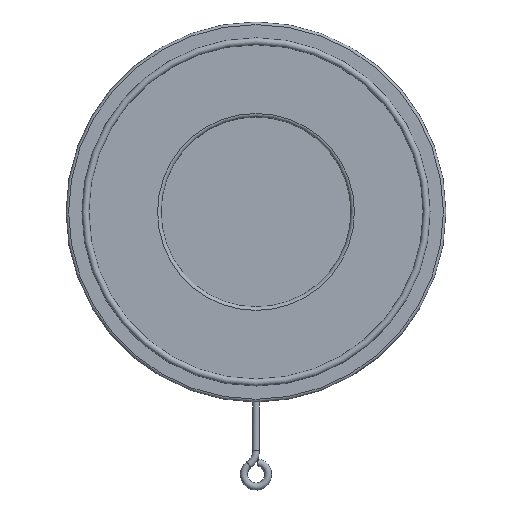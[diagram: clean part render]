
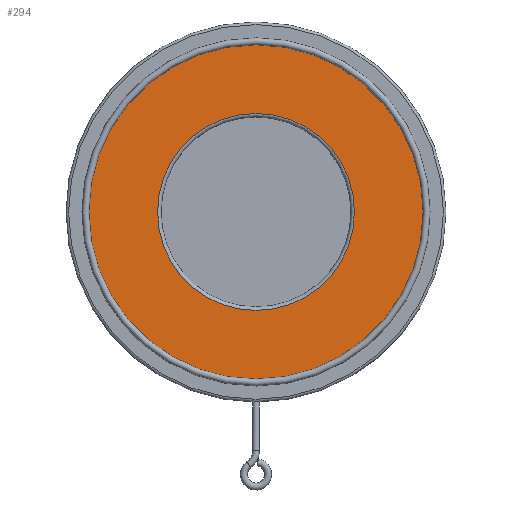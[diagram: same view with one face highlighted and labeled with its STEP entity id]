
A CAD part, top view. The second image highlights one B-rep face of the part: STEP entity #294.
In plain terms, the highlighted planar face has unit normal (0, 0, 1).
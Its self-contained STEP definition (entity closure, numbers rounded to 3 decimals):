
#294 = ADVANCED_FACE( '', ( #788, #789 ), #790, .F. );
#788 = FACE_BOUND( '', #1534, .T. );
#789 = FACE_OUTER_BOUND( '', #1535, .T. );
#790 = PLANE( '', #1536 );
#1534 = EDGE_LOOP( '', ( #2455 ) );
#1535 = EDGE_LOOP( '', ( #2456 ) );
#1536 = AXIS2_PLACEMENT_3D( '', #2457, #2458, #2459 );
#2455 = ORIENTED_EDGE( '', *, *, #4940, .T. );
#2456 = ORIENTED_EDGE( '', *, *, #4941, .T. );
#2457 = CARTESIAN_POINT( '', ( 0., 0., 10. ) );
#2458 = DIRECTION( '', ( 0., 0., -1. ) );
#2459 = DIRECTION( '', ( -1., 0., 0. ) );
#4940 = EDGE_CURVE( '', #5812, #5812, #5813, .T. );
#4941 = EDGE_CURVE( '', #5814, #5814, #5815, .T. );
#5812 = VERTEX_POINT( '', #7218 );
#5813 = CIRCLE( '', #7219, 57. );
#5814 = VERTEX_POINT( '', #7220 );
#5815 = CIRCLE( '', #7221, 96.8 );
#7218 = CARTESIAN_POINT( '', ( -57., 0., 10. ) );
#7219 = AXIS2_PLACEMENT_3D( '', #9991, #9992, #9993 );
#7220 = CARTESIAN_POINT( '', ( 96.8, 0., 10. ) );
#7221 = AXIS2_PLACEMENT_3D( '', #9994, #9995, #9996 );
#9991 = CARTESIAN_POINT( '', ( 0., 0., 10. ) );
#9992 = DIRECTION( '', ( 0., 0., -1. ) );
#9993 = DIRECTION( '', ( -1., 0., 0. ) );
#9994 = CARTESIAN_POINT( '', ( 0., 0., 10. ) );
#9995 = DIRECTION( '', ( 0., 0., 1. ) );
#9996 = DIRECTION( '', ( 1., 0., 0. ) );
